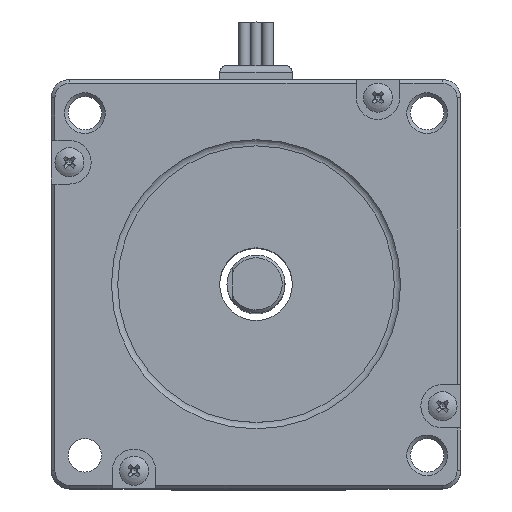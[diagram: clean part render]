
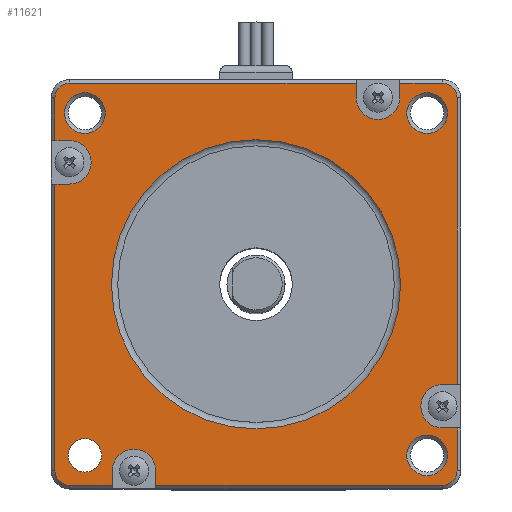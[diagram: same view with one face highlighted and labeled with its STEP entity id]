
A CAD part, top view. The second image highlights one B-rep face of the part: STEP entity #11621.
In plain terms, the highlighted planar face has unit normal (0, 0, 1).
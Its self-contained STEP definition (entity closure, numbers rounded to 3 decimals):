
#1281=FACE_BOUND('',#2186,.T.);
#1282=FACE_BOUND('',#2187,.T.);
#1283=FACE_BOUND('',#2188,.T.);
#1284=FACE_BOUND('',#2189,.T.);
#1285=FACE_BOUND('',#2190,.T.);
#1331=PLANE('',#12590);
#1450=FACE_OUTER_BOUND('',#2185,.T.);
#2185=EDGE_LOOP('',(#7825,#7826,#7827,#7828,#7829,#7830,#7831,#7832,#7833,
#7834,#7835,#7836,#7837,#7838,#7839,#7840,#7841,#7842,#7843,#7844,#7845,
#7846,#7847,#7848));
#2186=EDGE_LOOP('',(#7849));
#2187=EDGE_LOOP('',(#7850));
#2188=EDGE_LOOP('',(#7851));
#2189=EDGE_LOOP('',(#7852));
#2190=EDGE_LOOP('',(#7853));
#2926=CIRCLE('',#12548,2.);
#2956=CIRCLE('',#12591,2.);
#2957=CIRCLE('',#12592,3.);
#2958=CIRCLE('',#12593,3.);
#2959=CIRCLE('',#12594,2.);
#2960=CIRCLE('',#12595,3.);
#2961=CIRCLE('',#12596,2.);
#2962=CIRCLE('',#12597,3.);
#2963=CIRCLE('',#12598,2.3);
#2964=CIRCLE('',#12599,2.8);
#2965=CIRCLE('',#12600,2.8);
#2966=CIRCLE('',#12601,19.914);
#2967=CIRCLE('',#12602,2.8);
#3195=LINE('',#15400,#3992);
#3198=LINE('',#15405,#3995);
#3202=LINE('',#15422,#3999);
#3207=LINE('',#15439,#4004);
#3220=LINE('',#15500,#4017);
#3221=LINE('',#15502,#4018);
#3222=LINE('',#15506,#4019);
#3223=LINE('',#15508,#4020);
#3224=LINE('',#15512,#4021);
#3225=LINE('',#15514,#4022);
#3226=LINE('',#15518,#4023);
#3227=LINE('',#15520,#4024);
#3228=LINE('',#15524,#4025);
#3229=LINE('',#15526,#4026);
#3230=LINE('',#15530,#4027);
#3231=LINE('',#15532,#4028);
#3992=VECTOR('',#13262,1.);
#3995=VECTOR('',#13267,1.);
#3999=VECTOR('',#13285,1.);
#4004=VECTOR('',#13302,1.);
#4017=VECTOR('',#13357,1.);
#4018=VECTOR('',#13358,1.);
#4019=VECTOR('',#13363,1.);
#4020=VECTOR('',#13364,1.);
#4021=VECTOR('',#13367,1.);
#4022=VECTOR('',#13368,1.);
#4023=VECTOR('',#13371,1.);
#4024=VECTOR('',#13372,1.);
#4025=VECTOR('',#13375,1.);
#4026=VECTOR('',#13376,1.);
#4027=VECTOR('',#13379,1.);
#4028=VECTOR('',#13380,1.);
#4773=VERTEX_POINT('',#15355);
#4774=VERTEX_POINT('',#15357);
#4791=VERTEX_POINT('',#15397);
#4792=VERTEX_POINT('',#15399);
#4793=VERTEX_POINT('',#15403);
#4798=VERTEX_POINT('',#15419);
#4799=VERTEX_POINT('',#15421);
#4831=VERTEX_POINT('',#15498);
#4832=VERTEX_POINT('',#15499);
#4833=VERTEX_POINT('',#15501);
#4834=VERTEX_POINT('',#15505);
#4835=VERTEX_POINT('',#15507);
#4836=VERTEX_POINT('',#15509);
#4837=VERTEX_POINT('',#15511);
#4838=VERTEX_POINT('',#15513);
#4839=VERTEX_POINT('',#15515);
#4840=VERTEX_POINT('',#15517);
#4841=VERTEX_POINT('',#15519);
#4842=VERTEX_POINT('',#15521);
#4843=VERTEX_POINT('',#15523);
#4844=VERTEX_POINT('',#15525);
#4845=VERTEX_POINT('',#15527);
#4846=VERTEX_POINT('',#15529);
#4847=VERTEX_POINT('',#15531);
#4848=VERTEX_POINT('',#15534);
#4849=VERTEX_POINT('',#15536);
#4850=VERTEX_POINT('',#15538);
#4851=VERTEX_POINT('',#15540);
#4852=VERTEX_POINT('',#15542);
#5902=EDGE_CURVE('',#4773,#4774,#2926,.T.);
#5922=EDGE_CURVE('',#4791,#4792,#3195,.T.);
#5925=EDGE_CURVE('',#4793,#4792,#3198,.T.);
#5933=EDGE_CURVE('',#4798,#4799,#3202,.T.);
#5942=EDGE_CURVE('',#4798,#4773,#3207,.T.);
#5972=EDGE_CURVE('',#4831,#4832,#3220,.T.);
#5973=EDGE_CURVE('',#4831,#4833,#3221,.T.);
#5974=EDGE_CURVE('',#4833,#4793,#2956,.T.);
#5975=EDGE_CURVE('',#4799,#4791,#2957,.T.);
#5976=EDGE_CURVE('',#4774,#4834,#3222,.T.);
#5977=EDGE_CURVE('',#4835,#4834,#3223,.T.);
#5978=EDGE_CURVE('',#4836,#4835,#2958,.T.);
#5979=EDGE_CURVE('',#4837,#4836,#3224,.T.);
#5980=EDGE_CURVE('',#4837,#4838,#3225,.T.);
#5981=EDGE_CURVE('',#4838,#4839,#2959,.T.);
#5982=EDGE_CURVE('',#4839,#4840,#3226,.T.);
#5983=EDGE_CURVE('',#4841,#4840,#3227,.T.);
#5984=EDGE_CURVE('',#4842,#4841,#2960,.T.);
#5985=EDGE_CURVE('',#4843,#4842,#3228,.T.);
#5986=EDGE_CURVE('',#4843,#4844,#3229,.T.);
#5987=EDGE_CURVE('',#4844,#4845,#2961,.T.);
#5988=EDGE_CURVE('',#4845,#4846,#3230,.T.);
#5989=EDGE_CURVE('',#4847,#4846,#3231,.T.);
#5990=EDGE_CURVE('',#4832,#4847,#2962,.T.);
#5991=EDGE_CURVE('',#4848,#4848,#2963,.T.);
#5992=EDGE_CURVE('',#4849,#4849,#2964,.T.);
#5993=EDGE_CURVE('',#4850,#4850,#2965,.T.);
#5994=EDGE_CURVE('',#4851,#4851,#2966,.T.);
#5995=EDGE_CURVE('',#4852,#4852,#2967,.T.);
#7825=ORIENTED_EDGE('',*,*,#5972,.F.);
#7826=ORIENTED_EDGE('',*,*,#5973,.T.);
#7827=ORIENTED_EDGE('',*,*,#5974,.T.);
#7828=ORIENTED_EDGE('',*,*,#5925,.T.);
#7829=ORIENTED_EDGE('',*,*,#5922,.F.);
#7830=ORIENTED_EDGE('',*,*,#5975,.F.);
#7831=ORIENTED_EDGE('',*,*,#5933,.F.);
#7832=ORIENTED_EDGE('',*,*,#5942,.T.);
#7833=ORIENTED_EDGE('',*,*,#5902,.T.);
#7834=ORIENTED_EDGE('',*,*,#5976,.T.);
#7835=ORIENTED_EDGE('',*,*,#5977,.F.);
#7836=ORIENTED_EDGE('',*,*,#5978,.F.);
#7837=ORIENTED_EDGE('',*,*,#5979,.F.);
#7838=ORIENTED_EDGE('',*,*,#5980,.T.);
#7839=ORIENTED_EDGE('',*,*,#5981,.T.);
#7840=ORIENTED_EDGE('',*,*,#5982,.T.);
#7841=ORIENTED_EDGE('',*,*,#5983,.F.);
#7842=ORIENTED_EDGE('',*,*,#5984,.F.);
#7843=ORIENTED_EDGE('',*,*,#5985,.F.);
#7844=ORIENTED_EDGE('',*,*,#5986,.T.);
#7845=ORIENTED_EDGE('',*,*,#5987,.T.);
#7846=ORIENTED_EDGE('',*,*,#5988,.T.);
#7847=ORIENTED_EDGE('',*,*,#5989,.F.);
#7848=ORIENTED_EDGE('',*,*,#5990,.F.);
#7849=ORIENTED_EDGE('',*,*,#5991,.F.);
#7850=ORIENTED_EDGE('',*,*,#5992,.F.);
#7851=ORIENTED_EDGE('',*,*,#5993,.F.);
#7852=ORIENTED_EDGE('',*,*,#5994,.F.);
#7853=ORIENTED_EDGE('',*,*,#5995,.F.);
#11621=ADVANCED_FACE('',(#1450,#1281,#1282,#1283,#1284,#1285),#1331,.T.);
#12548=AXIS2_PLACEMENT_3D('',#15359,#13231,#13232);
#12590=AXIS2_PLACEMENT_3D('',#15497,#13355,#13356);
#12591=AXIS2_PLACEMENT_3D('',#15503,#13359,#13360);
#12592=AXIS2_PLACEMENT_3D('',#15504,#13361,#13362);
#12593=AXIS2_PLACEMENT_3D('',#15510,#13365,#13366);
#12594=AXIS2_PLACEMENT_3D('',#15516,#13369,#13370);
#12595=AXIS2_PLACEMENT_3D('',#15522,#13373,#13374);
#12596=AXIS2_PLACEMENT_3D('',#15528,#13377,#13378);
#12597=AXIS2_PLACEMENT_3D('',#15533,#13381,#13382);
#12598=AXIS2_PLACEMENT_3D('',#15535,#13383,#13384);
#12599=AXIS2_PLACEMENT_3D('',#15537,#13385,#13386);
#12600=AXIS2_PLACEMENT_3D('',#15539,#13387,#13388);
#12601=AXIS2_PLACEMENT_3D('',#15541,#13389,#13390);
#12602=AXIS2_PLACEMENT_3D('',#15543,#13391,#13392);
#13231=DIRECTION('center_axis',(0.,0.,1.));
#13232=DIRECTION('ref_axis',(-1.,0.,0.));
#13262=DIRECTION('',(-1.,0.,0.));
#13267=DIRECTION('',(0.,-1.,0.));
#13285=DIRECTION('',(1.,0.,0.));
#13302=DIRECTION('',(0.,-1.,0.));
#13355=DIRECTION('center_axis',(0.,0.,1.));
#13356=DIRECTION('ref_axis',(1.,0.,0.));
#13357=DIRECTION('',(0.,-1.,0.));
#13358=DIRECTION('',(-1.,0.,0.));
#13359=DIRECTION('center_axis',(0.,0.,1.));
#13360=DIRECTION('ref_axis',(0.,1.,0.));
#13361=DIRECTION('center_axis',(0.,0.,1.));
#13362=DIRECTION('ref_axis',(1.,0.,0.));
#13363=DIRECTION('',(1.,0.,0.));
#13364=DIRECTION('',(0.,-1.,0.));
#13365=DIRECTION('center_axis',(0.,0.,1.));
#13366=DIRECTION('ref_axis',(0.,1.,0.));
#13367=DIRECTION('',(0.,1.,0.));
#13368=DIRECTION('',(1.,0.,0.));
#13369=DIRECTION('center_axis',(0.,0.,1.));
#13370=DIRECTION('ref_axis',(0.,-1.,0.));
#13371=DIRECTION('',(0.,1.,0.));
#13372=DIRECTION('',(1.,0.,0.));
#13373=DIRECTION('center_axis',(0.,0.,1.));
#13374=DIRECTION('ref_axis',(-1.,0.,0.));
#13375=DIRECTION('',(-1.,0.,0.));
#13376=DIRECTION('',(0.,1.,0.));
#13377=DIRECTION('center_axis',(0.,0.,1.));
#13378=DIRECTION('ref_axis',(1.,0.,0.));
#13379=DIRECTION('',(-1.,0.,0.));
#13380=DIRECTION('',(0.,1.,0.));
#13381=DIRECTION('center_axis',(0.,0.,1.));
#13382=DIRECTION('ref_axis',(0.,-1.,0.));
#13383=DIRECTION('center_axis',(0.,0.,1.));
#13384=DIRECTION('ref_axis',(1.,0.,0.));
#13385=DIRECTION('center_axis',(0.,0.,1.));
#13386=DIRECTION('ref_axis',(1.,0.,0.));
#13387=DIRECTION('center_axis',(0.,0.,1.));
#13388=DIRECTION('ref_axis',(1.,0.,0.));
#13389=DIRECTION('center_axis',(0.,0.,1.));
#13390=DIRECTION('ref_axis',(1.,0.,0.));
#13391=DIRECTION('center_axis',(0.,0.,1.));
#13392=DIRECTION('ref_axis',(1.,0.,0.));
#15355=CARTESIAN_POINT('',(-27.7,-25.7,0.));
#15357=CARTESIAN_POINT('',(-25.7,-27.7,0.));
#15359=CARTESIAN_POINT('Origin',(-25.7,-25.7,0.));
#15397=CARTESIAN_POINT('',(-25.7,19.8,0.));
#15399=CARTESIAN_POINT('',(-27.7,19.8,0.));
#15400=CARTESIAN_POINT('',(-25.7,19.8,0.));
#15403=CARTESIAN_POINT('',(-27.7,25.7,0.));
#15405=CARTESIAN_POINT('',(-27.7,25.7,0.));
#15419=CARTESIAN_POINT('',(-27.7,13.8,0.));
#15421=CARTESIAN_POINT('',(-25.7,13.8,0.));
#15422=CARTESIAN_POINT('',(-28.2,13.8,0.));
#15439=CARTESIAN_POINT('',(-27.7,13.8,0.));
#15497=CARTESIAN_POINT('Origin',(0.,0.,0.));
#15498=CARTESIAN_POINT('',(13.8,27.7,0.));
#15499=CARTESIAN_POINT('',(13.8,25.7,0.));
#15500=CARTESIAN_POINT('',(13.8,28.2,0.));
#15501=CARTESIAN_POINT('',(-25.7,27.7,0.));
#15502=CARTESIAN_POINT('',(13.8,27.7,0.));
#15503=CARTESIAN_POINT('Origin',(-25.7,25.7,0.));
#15504=CARTESIAN_POINT('Origin',(-25.7,16.8,0.));
#15505=CARTESIAN_POINT('',(-19.8,-27.7,0.));
#15506=CARTESIAN_POINT('',(-25.7,-27.7,0.));
#15507=CARTESIAN_POINT('',(-19.8,-25.7,0.));
#15508=CARTESIAN_POINT('',(-19.8,-25.7,0.));
#15509=CARTESIAN_POINT('',(-13.8,-25.7,0.));
#15510=CARTESIAN_POINT('Origin',(-16.8,-25.7,0.));
#15511=CARTESIAN_POINT('',(-13.8,-27.7,0.));
#15512=CARTESIAN_POINT('',(-13.8,-28.2,0.));
#15513=CARTESIAN_POINT('',(25.7,-27.7,0.));
#15514=CARTESIAN_POINT('',(-13.8,-27.7,0.));
#15515=CARTESIAN_POINT('',(27.7,-25.7,0.));
#15516=CARTESIAN_POINT('Origin',(25.7,-25.7,0.));
#15517=CARTESIAN_POINT('',(27.7,-19.8,0.));
#15518=CARTESIAN_POINT('',(27.7,-25.7,0.));
#15519=CARTESIAN_POINT('',(25.7,-19.8,0.));
#15520=CARTESIAN_POINT('',(25.7,-19.8,0.));
#15521=CARTESIAN_POINT('',(25.7,-13.8,0.));
#15522=CARTESIAN_POINT('Origin',(25.7,-16.8,0.));
#15523=CARTESIAN_POINT('',(27.7,-13.8,0.));
#15524=CARTESIAN_POINT('',(28.2,-13.8,0.));
#15525=CARTESIAN_POINT('',(27.7,25.7,0.));
#15526=CARTESIAN_POINT('',(27.7,-13.8,0.));
#15527=CARTESIAN_POINT('',(25.7,27.7,0.));
#15528=CARTESIAN_POINT('Origin',(25.7,25.7,0.));
#15529=CARTESIAN_POINT('',(19.8,27.7,0.));
#15530=CARTESIAN_POINT('',(25.7,27.7,0.));
#15531=CARTESIAN_POINT('',(19.8,25.7,0.));
#15532=CARTESIAN_POINT('',(19.8,25.7,0.));
#15533=CARTESIAN_POINT('Origin',(16.8,25.7,0.));
#15534=CARTESIAN_POINT('',(-25.87,-23.57,0.));
#15535=CARTESIAN_POINT('Origin',(-23.57,-23.57,0.));
#15536=CARTESIAN_POINT('',(20.77,-23.57,0.));
#15537=CARTESIAN_POINT('Origin',(23.57,-23.57,0.));
#15538=CARTESIAN_POINT('',(-26.37,23.57,0.));
#15539=CARTESIAN_POINT('Origin',(-23.57,23.57,0.));
#15540=CARTESIAN_POINT('',(-19.914,0.,0.));
#15541=CARTESIAN_POINT('Origin',(0.,0.,0.));
#15542=CARTESIAN_POINT('',(20.77,23.57,0.));
#15543=CARTESIAN_POINT('Origin',(23.57,23.57,0.));
